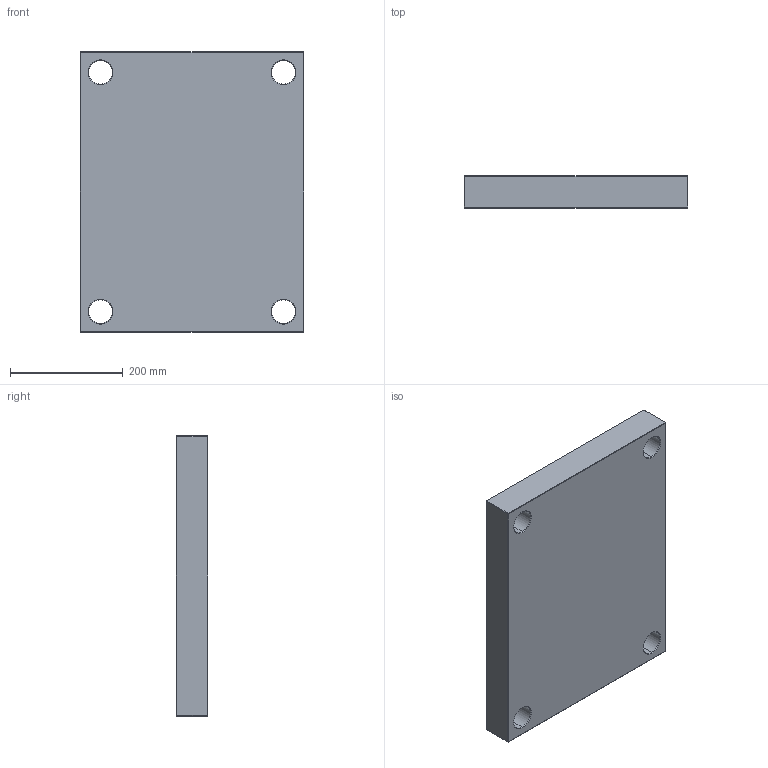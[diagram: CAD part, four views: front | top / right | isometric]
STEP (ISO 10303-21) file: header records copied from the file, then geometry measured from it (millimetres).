
FILE_DESCRIPTION (( 'STEP AP214' ), '1' );
FILE_NAME ('PC-396x496x56.STEP', '2020-04-21T17:22:22', ( 'August' ), ( '' ), 'SwSTEP 2.0', 'SolidWorks 2018', '' );
FILE_SCHEMA (( 'AUTOMOTIVE_DESIGN' ));
Length unit declared in the file: millimetre
Products named in the file (1): PC-396x496x56
Bounding box: 396 x 56 x 496 mm (x, y, z)
Volume: 10655593.8 mm3; surface area: 513721.1 mm2
Topology: 1 solids, 1 shells, 82 faces, 168 edges, 96 vertices
Faces by surface type: plane 34, cone 24, cylinder 24
Entity records: 2170 total; most frequent: DIRECTION 406, CARTESIAN_POINT 347, ORIENTED_EDGE 336, EDGE_CURVE 168, AXIS2_PLACEMENT_3D 155, EDGE_LOOP 98, VECTOR 96, VERTEX_POINT 96
